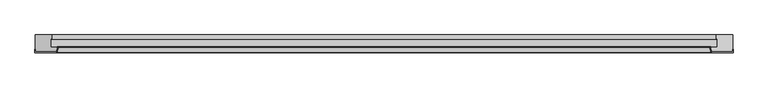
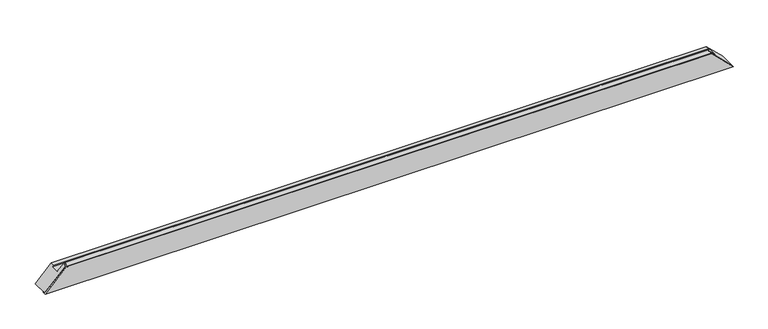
"""IFC4 building model written with IfcOpenShell, lengths in millimetres: proxy geometry, Weiku - Montante - Caixilho 02.2.01.005 : Weiku - Montante - Caixilho 02.2.01.005."""

from ifc_helpers import new_model, si_unit, frame, origin, place, context, project, spatial, polyline, ellipse_curve, source, transform, mapped, element, save
from ifc_brep_helpers import plane_surface, cylinder_surface, revolved_surface, advanced_brep


def generic_models_8b030440(model_context):
    return source(origin(), model_context, "Body", "AdvancedBrep", [
        advanced_brep(
        [(983.4663236, -4.0, 64.0336764), (1048.5, -4.0, -1.0), (1048.5, 6.4862095, -1.0), (1047.5, 6.4862095, 0.0), (1047.5, 0.0, 0.0), (985.9997332, 0.0, 61.5002668), (983.1019557, 2.2235429, 64.3980443), (980.618227, 11.4929448, 66.881773), (981.3909676, 12.5, 66.1090324), (981.3909676, 14.5, 66.1090324), (978.6863753, 10.9753067, 68.8136247), (982.5003978, -3.258819, 64.9996022), (-1048.5, -4.0, -1.0), (-983.4663236, -4.0, 64.0336764), (-982.5003978, -3.258819, 64.9996022), (-978.6863753, 10.9753067, 68.8136247), (-981.3909676, 14.5, 66.1090324), (-981.3909676, 12.5, 66.1090324), (-980.618227, 11.4929448, 66.881773), (-983.1019557, 2.2235429, 64.3980443), (-985.9997332, 0.0, 61.5002668), (-1047.5, 0.0, 0.0), (-1047.5, 6.4862095, 0.0), (-1048.5, 6.4862095, -1.0)],
        [
            (0, 1),
            (1, 2),
            (2, 3),
            (3, 4),
            (4, 5),
            (5, 6, ellipse_curve(frame((985.9997332, 3.0, 61.5002668), z_axis=(-0.7071067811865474, 0.0, -0.7071067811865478), x_axis=(0.7071067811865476, 0.0, -0.7071067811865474)), 4.2426407, 3.0)),
            (6, 7),
            (7, 8, ellipse_curve(frame((981.3909676, 11.7, 66.1090324), z_axis=(-0.7071067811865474, 0.0, -0.7071067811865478), x_axis=(0.7071067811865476, 0.0, -0.7071067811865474)), 1.1313708, 0.8)),
            (8, 9),
            (9, 10, ellipse_curve(frame((981.3909676, 11.7, 66.1090324), z_axis=(0.7071067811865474, 0.0, 0.7071067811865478), x_axis=(-0.7071067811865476, 0.0, 0.7071067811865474)), 3.959798, 2.8)),
            (10, 11),
            (11, 0, ellipse_curve(frame((983.4663236, -3.0, 64.0336764), z_axis=(0.7071067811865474, 0.0, 0.7071067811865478), x_axis=(-0.7071067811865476, 0.0, 0.7071067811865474)), 1.4142136, 1.0)),
            (12, 13),
            (13, 14, ellipse_curve(frame((-983.4663236, -3.0, 64.0336764), z_axis=(-0.7071067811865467, 0.0, 0.7071067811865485), x_axis=(-0.7071067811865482, 0.0, -0.7071067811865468)), 1.4142136, 1.0)),
            (14, 15),
            (15, 16, ellipse_curve(frame((-981.3909676, 11.7, 66.1090324), z_axis=(-0.7071067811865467, 0.0, 0.7071067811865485), x_axis=(-0.7071067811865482, 0.0, -0.7071067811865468)), 3.959798, 2.8)),
            (16, 17),
            (17, 18, ellipse_curve(frame((-981.3909676, 11.7, 66.1090324), z_axis=(0.7071067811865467, 0.0, -0.7071067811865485), x_axis=(0.7071067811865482, 0.0, 0.7071067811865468)), 1.1313708, 0.8)),
            (18, 19),
            (19, 20, ellipse_curve(frame((-985.9997332, 3.0, 61.5002668), z_axis=(0.7071067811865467, 0.0, -0.7071067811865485), x_axis=(0.7071067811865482, 0.0, 0.7071067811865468)), 4.2426407, 3.0)),
            (20, 21),
            (21, 22),
            (22, 23),
            (23, 12),
            (0, 13),
            (12, 1),
            (11, 14),
            (10, 15),
            (9, 16),
            (8, 17),
            (7, 18),
            (6, 19),
            (5, 20),
            (4, 21),
            (3, 22),
            (2, 23),
        ],
        [
            plane_surface(frame((977.5, -15.0, 70.0), z_axis=(0.7071067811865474, 0.0, 0.7071067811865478), x_axis=(0.0, 1.0, 0.0))),
            plane_surface(frame((-1117.5, -15.0, -70.0), z_axis=(-0.7071067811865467, 0.0, 0.7071067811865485), x_axis=(0.0, 1.0, 0.0))),
            plane_surface(frame((-1050.3284271, -4.0, -1.0), z_axis=(0.0, -1.0, 0.0), x_axis=(1.0, 0.0, 0.0))),
            cylinder_surface(frame((-1050.3284271, -3.0, 64.0336764), z_axis=(-1.0, 0.0, 0.0), x_axis=(0.0, 1.0, 0.0)), 1.0),
            plane_surface(frame((-1050.3284271, -3.258819, 64.9996022), z_axis=(0.0, -0.25881904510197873, 0.9659258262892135), x_axis=(1.0, 0.0, 0.0))),
            cylinder_surface(frame((-1050.3284271, 11.7, 66.1090324), z_axis=(-1.0, 0.0, 0.0), x_axis=(0.0, 1.0, 0.0)), 2.8),
            plane_surface(frame((-1050.3284271, 14.5, 66.1090324), z_axis=(0.0, 0.0, -1.0), x_axis=(1.0, 0.0, 0.0))),
            revolved_surface(polyline([(982.1909675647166, 12.5, 66.1090324), (-982.1909675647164, 12.5, 66.1090324)]), (-1050.3284271, 11.7, 66.1090324), (1.0, 0.0, 0.0)),
            plane_surface(frame((-1050.3284271, 11.4929448, 66.881773), z_axis=(0.0, 0.2588190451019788, -0.9659258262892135), x_axis=(1.0, 0.0, 0.0))),
            revolved_surface(polyline([(988.9997332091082, 6.0, 61.5002668), (-988.9997332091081, 6.0, 61.5002668)]), (-1050.3284271, 3.0, 61.5002668), (1.0, 0.0, 0.0)),
            plane_surface(frame((-1050.3284271, 0.0, 61.5002668), z_axis=(0.0, 1.0, 0.0), x_axis=(1.0, 0.0, 0.0))),
            plane_surface(frame((-1050.3284271, 0.0, 0.0), z_axis=(0.0, 0.0, 1.0), x_axis=(1.0, 0.0, 0.0))),
            plane_surface(frame((-1050.3284271, 6.4862095, 0.0), z_axis=(0.0, 1.0, 0.0), x_axis=(1.0, 0.0, 0.0))),
            plane_surface(frame((-1050.3284271, 6.4862095, -1.0), z_axis=(0.0, 0.0, -1.0), x_axis=(1.0, 0.0, 0.0))),
        ],
        [
            (0, [[1, 2, 3, 4, 5, 6, 7, 8, 9, 10, 11, 12]]),
            (1, [[13, 14, 15, 16, 17, 18, 19, 20, 21, 22, 23, 24]]),
            (2, [[-1, 25, -13, 26]]),
            (3, [[-12, 27, -14, -25]]),
            (4, [[-11, 28, -15, -27]]),
            (5, [[-10, 29, -16, -28]]),
            (6, [[-9, 30, -17, -29]]),
            (7, [[-8, 31, -18, -30]]),
            (8, [[-7, 32, -19, -31]]),
            (9, [[-6, 33, -20, -32]]),
            (10, [[-5, 34, -21, -33]]),
            (11, [[-4, 35, -22, -34]]),
            (12, [[-3, 36, -23, -35]]),
            (13, [[-2, -26, -24, -36]]),
        ],
    ),
        advanced_brep(
        [(-1001.5, 12.5, 46.0), (-981.3909676, 12.5, 66.1090324), (981.3909676, 12.5, 66.1090324), (1001.5, 12.5, 46.0), (-1001.5, 37.8314286, 46.0), (1001.5, 37.8314286, 46.0), (-998.5, 37.027581, 49.0), (998.5, 37.027581, 49.0), (-998.5, 50.0, 49.0), (998.5, 50.0, 49.0), (1047.5, 50.0, 0.0), (-1047.5, 50.0, 0.0), (1047.5, 0.0, 0.0), (-1047.5, 0.0, 0.0), (985.9997332, 0.0, 61.5002668), (-985.9997332, 0.0, 61.5002668), (-980.618227, 11.4929448, 66.881773), (-983.1019557, 2.2235429, 64.3980443), (983.1019557, 2.2235429, 64.3980443), (980.618227, 11.4929448, 66.881773)],
        [
            (0, 1),
            (1, 2),
            (2, 3),
            (3, 0),
            (4, 0),
            (3, 5),
            (5, 4),
            (6, 4),
            (5, 7),
            (7, 6),
            (8, 6),
            (7, 9),
            (9, 8),
            (10, 11),
            (11, 8),
            (9, 10),
            (10, 12),
            (12, 13),
            (13, 11),
            (12, 14),
            (14, 15),
            (15, 13),
            (16, 17),
            (17, 18),
            (18, 19),
            (19, 16),
            (15, 17, ellipse_curve(frame((-985.9997332, 3.0, 61.5002668), z_axis=(-0.7071067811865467, 0.0, 0.7071067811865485), x_axis=(-0.7071067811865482, 0.0, -0.7071067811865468)), 4.2426407, 3.0)),
            (16, 1, ellipse_curve(frame((-981.3909676, 11.7, 66.1090324), z_axis=(-0.7071067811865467, 0.0, 0.7071067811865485), x_axis=(-0.7071067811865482, 0.0, -0.7071067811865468)), 1.1313708, 0.8)),
            (2, 19, ellipse_curve(frame((981.3909676, 11.7, 66.1090324), z_axis=(0.7071067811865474, 0.0, 0.7071067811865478), x_axis=(-0.7071067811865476, 0.0, 0.7071067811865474)), 1.1313708, 0.8)),
            (18, 14, ellipse_curve(frame((985.9997332, 3.0, 61.5002668), z_axis=(0.7071067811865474, 0.0, 0.7071067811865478), x_axis=(-0.7071067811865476, 0.0, 0.7071067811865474)), 4.2426407, 3.0)),
        ],
        [
            plane_surface(frame((-1047.5, 12.5, 66.1090324), z_axis=(0.0, 1.0, 0.0), x_axis=(1.0, 0.0, 0.0))),
            plane_surface(frame((-1047.5, 12.5, 46.0), z_axis=(0.0, 0.0, 1.0), x_axis=(1.0, 0.0, 0.0))),
            plane_surface(frame((-1047.5, 37.8314286, 46.0), z_axis=(0.0, -0.9659258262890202, -0.2588190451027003), x_axis=(1.0, 0.0, 0.0))),
            plane_surface(frame((-1047.5, 37.027581, 49.0), z_axis=(0.0, 0.0, 1.0), x_axis=(1.0, 0.0, 0.0))),
            plane_surface(frame((-1047.5, 50.0, 49.0), z_axis=(0.0, 1.0, 0.0), x_axis=(1.0, 0.0, 0.0))),
            plane_surface(frame((-1047.5, 50.0, 0.0), z_axis=(0.0, 0.0, -1.0), x_axis=(1.0, 0.0, 0.0))),
            plane_surface(frame((-1047.5, 0.0, 0.0), z_axis=(0.0, -1.0, 0.0), x_axis=(1.0, 0.0, 0.0))),
            plane_surface(frame((-1047.5, 2.2235429, 64.3980443), z_axis=(0.0, -0.2588190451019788, 0.9659258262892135), x_axis=(1.0, 0.0, 0.0))),
            plane_surface(frame((-1117.5, -15.0, -70.0), z_axis=(-0.7071067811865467, 0.0, 0.7071067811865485), x_axis=(0.0, 1.0, 0.0))),
            plane_surface(frame((977.5, -15.0, 70.0), z_axis=(0.7071067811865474, 0.0, 0.7071067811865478), x_axis=(0.0, 1.0, 0.0))),
            cylinder_surface(frame((-1047.5, 11.7, 66.1090324), z_axis=(-1.0, 0.0, 0.0), x_axis=(0.0, 1.0, 0.0)), 0.8),
            cylinder_surface(frame((-1047.5, 3.0, 61.5002668), z_axis=(-1.0, 0.0, 0.0), x_axis=(0.0, 1.0, 0.0)), 3.0),
        ],
        [
            (0, [[1, 2, 3, 4]]),
            (1, [[5, -4, 6, 7]]),
            (2, [[8, -7, 9, 10]]),
            (3, [[11, -10, 12, 13]]),
            (4, [[14, 15, -13, 16]]),
            (5, [[-14, 17, 18, 19]]),
            (6, [[-18, 20, 21, 22]]),
            (7, [[23, 24, 25, 26]]),
            (8, [[-1, -5, -8, -11, -15, -19, -22, 27, -23, 28]]),
            (9, [[-3, 29, -25, 30, -20, -17, -16, -12, -9, -6]]),
            (10, [[-28, -26, -29, -2]]),
            (11, [[-27, -21, -30, -24]]),
        ],
    ),
    ])


if __name__ == "__main__":
    model = new_model("IFC4")
    model_context = context("Model", 3, world=origin())
    ifc_project = project(units=[si_unit("LENGTHUNIT", "METRE", prefix="MILLI")], contexts=[model_context])
    site = spatial("IfcSite", under=ifc_project)
    building = spatial("IfcBuilding", under=site)
    placement = place(None, origin())
    generic_models_shape = generic_models_8b030440(model_context)
    element("IfcBuildingElementProxy", 1, Name="Weiku - Montante - Caixilho 02.2.01.005 : Weiku - Montante - Caixilho 02.2.01.005", ObjectType="Weiku - Montante - Caixilho 02.2.01.005 : Weiku - Montante - Caixilho 02.2.01.005", at=placement, inside=building, context=model_context, shape_type="MappedRepresentation", body=[
        mapped(generic_models_shape, transform((0.0, 0.0, 0.0), x_axis=(1.0, 0.0, 0.0), y_axis=(0.0, 1.0, 0.0), z_axis=(0.0, 0.0, 1.0))),
    ])
    save(model, "model.ifc")
